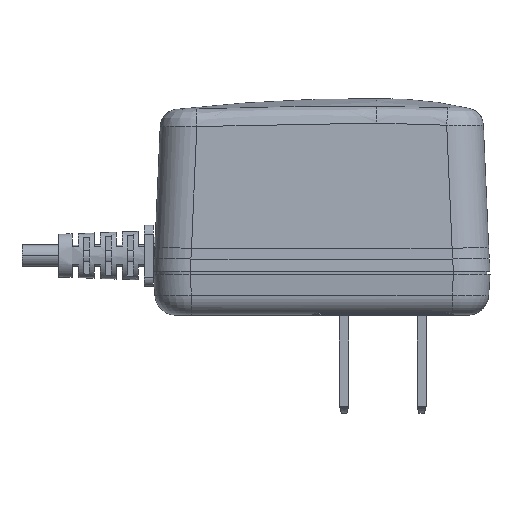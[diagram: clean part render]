
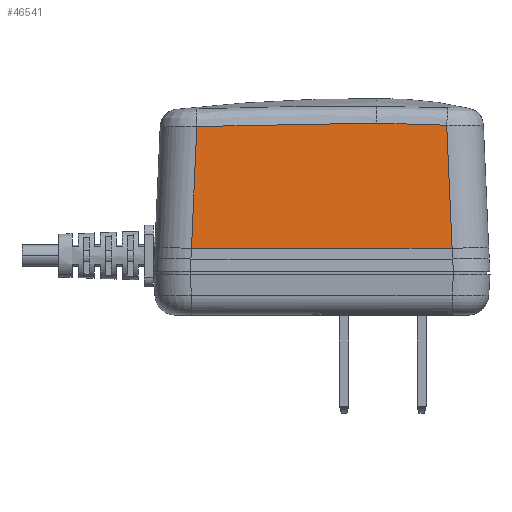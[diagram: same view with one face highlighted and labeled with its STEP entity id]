
A CAD part, front view. The second image highlights one B-rep face of the part: STEP entity #46541.
In plain terms, the highlighted planar face has unit normal (0, -0.999, 0.044).
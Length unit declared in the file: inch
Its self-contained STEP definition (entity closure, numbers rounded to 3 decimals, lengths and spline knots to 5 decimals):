
#90 = VERTEX_POINT ( 'NONE', #30561 ) ;
#2764 = VECTOR ( 'NONE', #32849, 39.37008 ) ;
#4196 = VECTOR ( 'NONE', #31416, 39.37008 ) ;
#4481 = B_SPLINE_CURVE_WITH_KNOTS ( 'NONE', 3,
 ( #50821, #23144, #31534, #11675 ),
 .UNSPECIFIED., .F., .F.,
 ( 4, 4 ),
 ( 0., 1. ),
 .UNSPECIFIED. ) ;
#4626 = FACE_OUTER_BOUND ( 'NONE', #31322, .T. ) ;
#5139 = CARTESIAN_POINT ( 'NONE',  ( 0.84026, -0.46602, 0.15685 ) ) ;
#5230 = EDGE_CURVE ( 'NONE', #90, #9314, #24468, .T. ) ;
#7273 = CARTESIAN_POINT ( 'NONE',  ( -0.06165, -0.43085, 0.96242 ) ) ;
#7524 = CARTESIAN_POINT ( 'NONE',  ( -0.22317, -0.43096, 0.95989 ) ) ;
#8841 = ORIENTED_EDGE ( 'NONE', *, *, #5230, .T. ) ;
#9314 = VERTEX_POINT ( 'NONE', #41571 ) ;
#11093 = EDGE_CURVE ( 'NONE', #17801, #50964, #11603, .T. ) ;
#11491 = CARTESIAN_POINT ( 'NONE',  ( -0.2253, -0.43096, 0.95985 ) ) ;
#11603 = B_SPLINE_CURVE_WITH_KNOTS ( 'NONE', 3,
 ( #41007, #25351, #30076, #37894 ),
 .UNSPECIFIED., .F., .F.,
 ( 4, 4 ),
 ( 0., 1. ),
 .UNSPECIFIED. ) ;
#11675 = CARTESIAN_POINT ( 'NONE',  ( 0.35428, -0.43075, 0.96477 ) ) ;
#11986 = EDGE_CURVE ( 'NONE', #47487, #50964, #33408, .T. ) ;
#13009 = PLANE ( 'NONE',  #34567 ) ;
#14557 = CARTESIAN_POINT ( 'NONE',  ( -0.80594, -0.4317, 0.94289 ) ) ;
#14894 = CARTESIAN_POINT ( 'NONE',  ( -0.2159, -0.43096, 0.96002 ) ) ;
#17801 = VERTEX_POINT ( 'NONE', #43770 ) ;
#19376 = CARTESIAN_POINT ( 'NONE',  ( -1.08268, -0.46602, 0.15685 ) ) ;
#19583 = CARTESIAN_POINT ( 'NONE',  ( -0.61877, -0.43137, 0.95057 ) ) ;
#20677 = ORIENTED_EDGE ( 'NONE', *, *, #11986, .T. ) ;
#21720 = EDGE_CURVE ( 'NONE', #9314, #47487, #4481, .T. ) ;
#23144 = CARTESIAN_POINT ( 'NONE',  ( 0.66382, -0.43095, 0.9602 ) ) ;
#24468 = LINE ( 'NONE', #5139, #2764 ) ;
#25254 = CARTESIAN_POINT ( 'NONE',  ( -1.08268, -0.47244, 0.00984 ) ) ;
#25351 = CARTESIAN_POINT ( 'NONE',  ( -0.82882, -0.45458, 0.41886 ) ) ;
#25781 = ORIENTED_EDGE ( 'NONE', *, *, #34998, .T. ) ;
#27417 = CARTESIAN_POINT ( 'NONE',  ( -0.22099, -0.43096, 0.95993 ) ) ;
#30076 = CARTESIAN_POINT ( 'NONE',  ( -0.81738, -0.44314, 0.68088 ) ) ;
#30561 = CARTESIAN_POINT ( 'NONE',  ( 0.84026, -0.46602, 0.15685 ) ) ;
#30595 = CARTESIAN_POINT ( 'NONE',  ( -0.80594, -0.4317, 0.94289 ) ) ;
#31322 = EDGE_LOOP ( 'NONE', ( #8841, #37781, #20677, #49965, #25781 ) ) ;
#31359 = CARTESIAN_POINT ( 'NONE',  ( 0.35428, -0.43075, 0.96477 ) ) ;
#31416 = DIRECTION ( 'NONE',  ( 1., 0., 0. ) ) ;
#31534 = CARTESIAN_POINT ( 'NONE',  ( 0.51339, -0.43075, 0.9647 ) ) ;
#31600 = CARTESIAN_POINT ( 'NONE',  ( -0.14427, -0.4309, 0.96122 ) ) ;
#32849 = DIRECTION ( 'NONE',  ( -0.044, 0.044, 0.998 ) ) ;
#33110 = DIRECTION ( 'NONE',  ( 0., -0.044, -0.999 ) ) ;
#33408 = B_SPLINE_CURVE_WITH_KNOTS ( 'NONE', 3,
 ( #31359, #51143, #35488, #7273, #31600, #47246, #38916, #14894, #27417, #7524, #34745, #11491, #51406, #19583, #30595 ),
 .UNSPECIFIED., .F., .F.,
 ( 4, 1, 1, 1, 1, 1, 1, 1, 2, 2, 4 ),
 ( 0., 0.25, 0.375, 0.4375, 0.46875, 0.48437, 0.49219, 0.49609, 0.49805, 0.5, 1. ),
 .UNSPECIFIED. ) ;
#34567 = AXIS2_PLACEMENT_3D ( 'NONE', #25254, #37017, #33110 ) ;
#34644 = CARTESIAN_POINT ( 'NONE',  ( 0.35428, -0.43075, 0.96477 ) ) ;
#34745 = CARTESIAN_POINT ( 'NONE',  ( -0.22463, -0.43096, 0.95987 ) ) ;
#34998 = EDGE_CURVE ( 'NONE', #17801, #90, #35802, .T. ) ;
#35488 = CARTESIAN_POINT ( 'NONE',  ( 0.10601, -0.43077, 0.96424 ) ) ;
#35802 = LINE ( 'NONE', #19376, #4196 ) ;
#37017 = DIRECTION ( 'NONE',  ( 0., -0.999, 0.044 ) ) ;
#37781 = ORIENTED_EDGE ( 'NONE', *, *, #21720, .T. ) ;
#37894 = CARTESIAN_POINT ( 'NONE',  ( -0.80594, -0.4317, 0.94289 ) ) ;
#38916 = CARTESIAN_POINT ( 'NONE',  ( -0.2057, -0.43095, 0.9602 ) ) ;
#41007 = CARTESIAN_POINT ( 'NONE',  ( -0.84026, -0.46602, 0.15685 ) ) ;
#41571 = CARTESIAN_POINT ( 'NONE',  ( 0.80558, -0.43134, 0.95128 ) ) ;
#43770 = CARTESIAN_POINT ( 'NONE',  ( -0.84026, -0.46602, 0.15685 ) ) ;
#46541 = ADVANCED_FACE ( 'NONE', ( #4626 ), #13009, .T. ) ;
#47246 = CARTESIAN_POINT ( 'NONE',  ( -0.18528, -0.43093, 0.96056 ) ) ;
#47487 = VERTEX_POINT ( 'NONE', #34644 ) ;
#49965 = ORIENTED_EDGE ( 'NONE', *, *, #11093, .F. ) ;
#50821 = CARTESIAN_POINT ( 'NONE',  ( 0.80558, -0.43134, 0.95128 ) ) ;
#50964 = VERTEX_POINT ( 'NONE', #14557 ) ;
#51143 = CARTESIAN_POINT ( 'NONE',  ( 0.25386, -0.43075, 0.96482 ) ) ;
#51406 = CARTESIAN_POINT ( 'NONE',  ( -0.42548, -0.43112, 0.95622 ) ) ;
